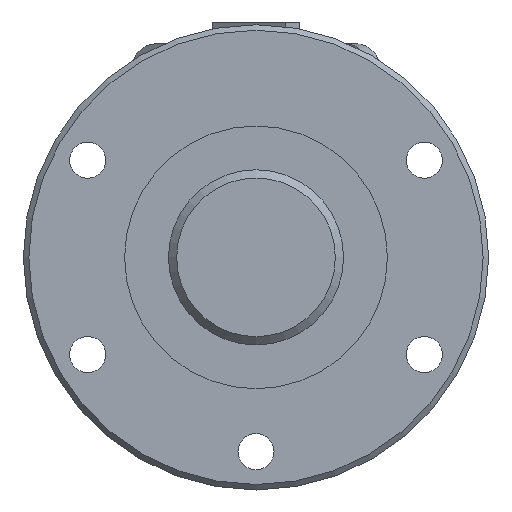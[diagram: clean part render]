
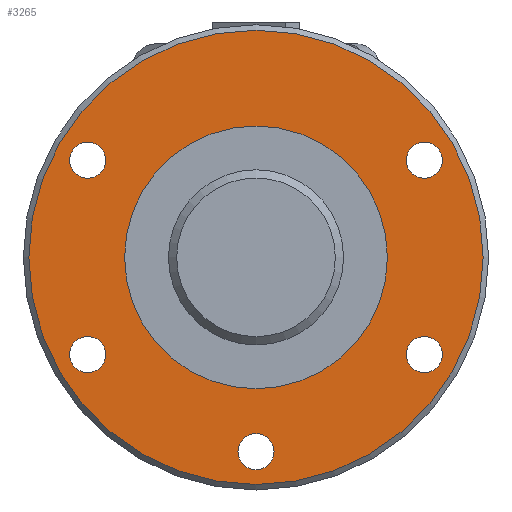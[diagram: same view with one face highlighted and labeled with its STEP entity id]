
A CAD part, left-side view. The second image highlights one B-rep face of the part: STEP entity #3265.
In plain terms, the highlighted planar face has unit normal (-1, 0, 0).
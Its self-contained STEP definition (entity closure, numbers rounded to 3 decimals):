
#1200=ORIENTED_EDGE('',*,*,#2002,.T.);
#1201=ORIENTED_EDGE('',*,*,#2003,.T.);
#1202=ORIENTED_EDGE('',*,*,#2004,.T.);
#1203=ORIENTED_EDGE('',*,*,#2005,.T.);
#1204=ORIENTED_EDGE('',*,*,#2006,.T.);
#1205=ORIENTED_EDGE('',*,*,#2007,.T.);
#1206=ORIENTED_EDGE('',*,*,#2008,.F.);
#2002=EDGE_CURVE('',#2391,#2391,#2510,.T.);
#2003=EDGE_CURVE('',#2392,#2392,#2511,.T.);
#2004=EDGE_CURVE('',#2393,#2393,#2512,.T.);
#2005=EDGE_CURVE('',#2394,#2394,#2513,.T.);
#2006=EDGE_CURVE('',#2395,#2395,#2514,.T.);
#2007=EDGE_CURVE('',#2396,#2396,#2515,.T.);
#2008=EDGE_CURVE('',#2397,#2397,#2516,.T.);
#2391=VERTEX_POINT('',#5241);
#2392=VERTEX_POINT('',#5243);
#2393=VERTEX_POINT('',#5245);
#2394=VERTEX_POINT('',#5247);
#2395=VERTEX_POINT('',#5249);
#2396=VERTEX_POINT('',#5251);
#2397=VERTEX_POINT('',#5253);
#2510=CIRCLE('',#3497,24.);
#2511=CIRCLE('',#3498,3.3);
#2512=CIRCLE('',#3499,3.3);
#2513=CIRCLE('',#3500,3.3);
#2514=CIRCLE('',#3501,3.3);
#2515=CIRCLE('',#3502,3.3);
#2516=CIRCLE('',#3503,41.5);
#2654=EDGE_LOOP('',(#1200));
#2655=EDGE_LOOP('',(#1201));
#2656=EDGE_LOOP('',(#1202));
#2657=EDGE_LOOP('',(#1203));
#2658=EDGE_LOOP('',(#1204));
#2659=EDGE_LOOP('',(#1205));
#2660=EDGE_LOOP('',(#1206));
#2898=FACE_BOUND('',#2654,.T.);
#2899=FACE_BOUND('',#2655,.T.);
#2900=FACE_BOUND('',#2656,.T.);
#2901=FACE_BOUND('',#2657,.T.);
#2902=FACE_BOUND('',#2658,.T.);
#2903=FACE_BOUND('',#2659,.T.);
#2904=FACE_BOUND('',#2660,.T.);
#3121=PLANE('',#3496);
#3265=ADVANCED_FACE('',(#2898,#2899,#2900,#2901,#2902,#2903,#2904),#3121,
 .T.);
#3496=AXIS2_PLACEMENT_3D('',#5239,#4107,#4108);
#3497=AXIS2_PLACEMENT_3D('',#5240,#4109,#4110);
#3498=AXIS2_PLACEMENT_3D('',#5242,#4111,#4112);
#3499=AXIS2_PLACEMENT_3D('',#5244,#4113,#4114);
#3500=AXIS2_PLACEMENT_3D('',#5246,#4115,#4116);
#3501=AXIS2_PLACEMENT_3D('',#5248,#4117,#4118);
#3502=AXIS2_PLACEMENT_3D('',#5250,#4119,#4120);
#3503=AXIS2_PLACEMENT_3D('',#5252,#4121,#4122);
#4107=DIRECTION('',(-1.,0.,0.));
#4108=DIRECTION('',(0.,0.,1.));
#4109=DIRECTION('',(1.,0.,0.));
#4110=DIRECTION('',(0.,0.,-1.));
#4111=DIRECTION('',(1.,0.,0.));
#4112=DIRECTION('',(0.,0.,-1.));
#4113=DIRECTION('',(1.,0.,0.));
#4114=DIRECTION('',(0.,0.,-1.));
#4115=DIRECTION('',(1.,0.,0.));
#4116=DIRECTION('',(0.,0.,-1.));
#4117=DIRECTION('',(1.,0.,0.));
#4118=DIRECTION('',(0.,0.,-1.));
#4119=DIRECTION('',(1.,0.,0.));
#4120=DIRECTION('',(0.,0.,-1.));
#4121=DIRECTION('',(1.,0.,0.));
#4122=DIRECTION('',(0.,0.,-1.));
#5239=CARTESIAN_POINT('',(0.,41.5,0.));
#5240=CARTESIAN_POINT('',(0.,0.,0.));
#5241=CARTESIAN_POINT('',(0.,0.,-24.));
#5242=CARTESIAN_POINT('',(0.,-35.5,0.));
#5243=CARTESIAN_POINT('',(0.,-35.5,-3.3));
#5244=CARTESIAN_POINT('',(0.,-17.75,30.744));
#5245=CARTESIAN_POINT('',(0.,-17.75,27.444));
#5246=CARTESIAN_POINT('',(0.,17.75,-30.744));
#5247=CARTESIAN_POINT('',(0.,17.75,-34.044));
#5248=CARTESIAN_POINT('',(0.,-17.75,-30.744));
#5249=CARTESIAN_POINT('',(0.,-17.75,-34.044));
#5250=CARTESIAN_POINT('',(0.,17.75,30.744));
#5251=CARTESIAN_POINT('',(0.,17.75,27.444));
#5252=CARTESIAN_POINT('',(0.,0.,0.));
#5253=CARTESIAN_POINT('',(0.,0.,-41.5));
